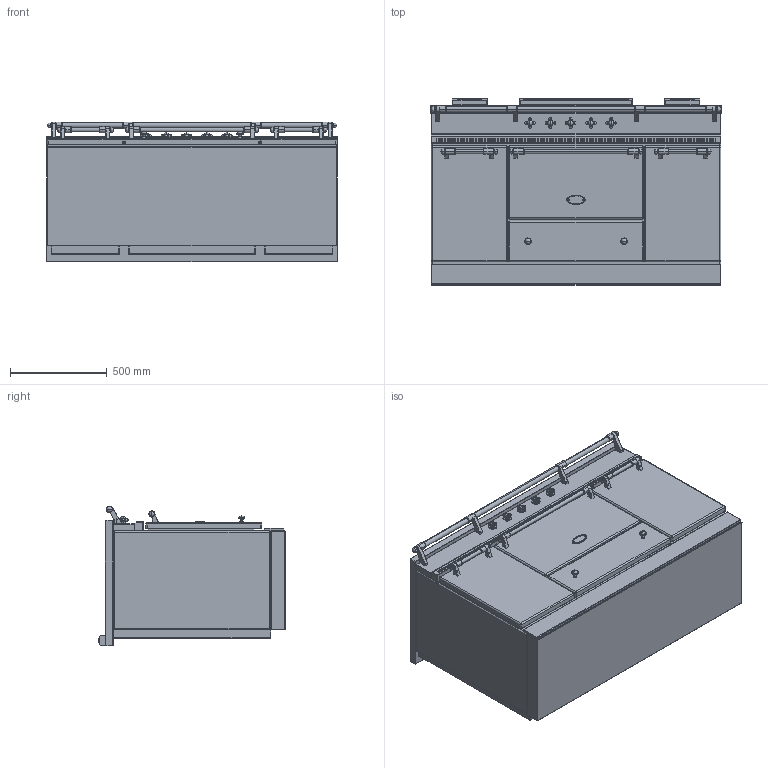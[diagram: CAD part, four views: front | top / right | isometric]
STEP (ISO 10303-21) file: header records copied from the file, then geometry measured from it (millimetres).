
FILE_DESCRIPTION((''),'2;1');
FILE_NAME('LVTR1541__ASM','2021-12-08T08:48:32',('r.avril'),(''),'CREO PARAMETRIC BY PTC INC, 2017260','CREO PARAMETRIC BY PTC INC, 2017260','');
FILE_SCHEMA(('AP203_CONFIGURATION_CONTROLLED_3D_DESIGN_OF_MECHANICAL_PARTS_AND_ASSEMBLIES_MIM_LF { 1 0 10303 403 2 1 2 }'));
Products named in the file (21): BASE_EXPORT_FONTENAY_LVTR1541; 65650003; 65650004; 65650006; 65650007; 6531940; 6531941; 6531943; 65049009; 65650001; 6538399; 1931942; 65080022_AF0; 6531942_ASM; BASE_EXPORT_FONTENAY_LVTR1541_ASM; TABLE_1505_INDUCTION_ET_VTR; 65052002; CHEMINEE_2020_LG182_EXPORT_STEP; CHEMINEE_2020_LG582_EXPORT_STEP; TABLE_1505_VTR_ASM; LVTR1541__ASM
Assembly tree (30 placements, depth 4):
  LVTR1541__ASM
    BASE_EXPORT_FONTENAY_LVTR1541_ASM
      BASE_EXPORT_FONTENAY_LVTR1541
      65650003
      65650004
      65650006
      65650007
      6531940  x3
      6531941  x3
      6531943  x2
      65049009
      65650001
      6531942_ASM  x5
        6538399
        1931942
        65080022_AF0
    TABLE_1505_VTR_ASM
      TABLE_1505_INDUCTION_ET_VTR
      65052002
      CHEMINEE_2020_LG182_EXPORT_STEP  x2
      CHEMINEE_2020_LG582_EXPORT_STEP
Bounding box: 1505 x 963 x 724 mm (x, y, z)
Volume: 555233471.4 mm3; surface area: 13456107.6 mm2
Topology: 43 solids, 55 shells, 4536 faces, 12204 edges, 7789 vertices
Faces by surface type: plane 2226, cylinder 1596, torus 219, sphere 162, extrusion 142, bspline 94, cone 81, revolution 16
Entity records: 107910 total; most frequent: CARTESIAN_POINT 24214, ORIENTED_EDGE 15024, DIRECTION 14944, EDGE_CURVE 7526, AXIS2_PLACEMENT_3D 5016, VERTEX_POINT 4847, VECTOR 4844, LINE 4814
